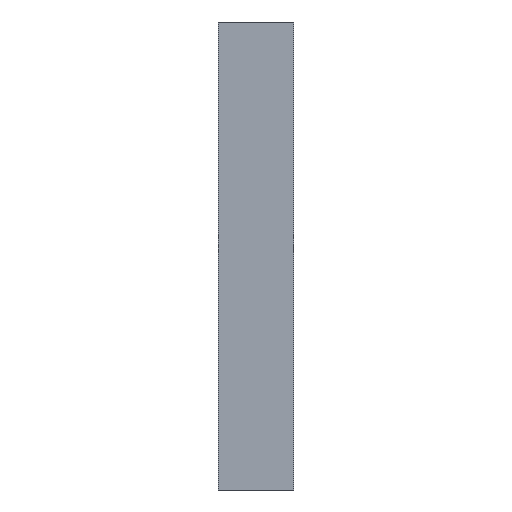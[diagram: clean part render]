
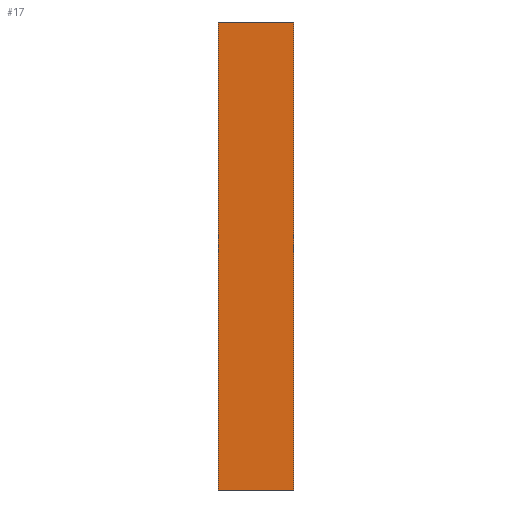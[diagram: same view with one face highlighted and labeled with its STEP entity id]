
A CAD part, left-side view. The second image highlights one B-rep face of the part: STEP entity #17.
In plain terms, the highlighted planar face has unit normal (-1, 0, 0).
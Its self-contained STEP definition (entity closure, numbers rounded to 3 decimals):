
#17 = ADVANCED_FACE('',(#18),#52,.F.);
#18 = FACE_BOUND('',#19,.F.);
#19 = EDGE_LOOP('',(#20,#30,#38,#46));
#20 = ORIENTED_EDGE('',*,*,#21,.F.);
#21 = EDGE_CURVE('',#22,#24,#26,.T.);
#22 = VERTEX_POINT('',#23);
#23 = CARTESIAN_POINT('',(13.6,-51.,288.25));
#24 = VERTEX_POINT('',#25);
#25 = CARTESIAN_POINT('',(13.6,-51.,331.75));
#26 = LINE('',#27,#28);
#27 = CARTESIAN_POINT('',(13.6,-51.,288.25));
#28 = VECTOR('',#29,1.);
#29 = DIRECTION('',(0.,0.,1.));
#30 = ORIENTED_EDGE('',*,*,#31,.T.);
#31 = EDGE_CURVE('',#22,#32,#34,.T.);
#32 = VERTEX_POINT('',#33);
#33 = CARTESIAN_POINT('',(13.6,-44.,288.25));
#34 = LINE('',#35,#36);
#35 = CARTESIAN_POINT('',(13.6,-51.,288.25));
#36 = VECTOR('',#37,1.);
#37 = DIRECTION('',(0.,1.,0.));
#38 = ORIENTED_EDGE('',*,*,#39,.T.);
#39 = EDGE_CURVE('',#32,#40,#42,.T.);
#40 = VERTEX_POINT('',#41);
#41 = CARTESIAN_POINT('',(13.6,-44.,331.75));
#42 = LINE('',#43,#44);
#43 = CARTESIAN_POINT('',(13.6,-44.,288.25));
#44 = VECTOR('',#45,1.);
#45 = DIRECTION('',(0.,0.,1.));
#46 = ORIENTED_EDGE('',*,*,#47,.F.);
#47 = EDGE_CURVE('',#24,#40,#48,.T.);
#48 = LINE('',#49,#50);
#49 = CARTESIAN_POINT('',(13.6,-51.,331.75));
#50 = VECTOR('',#51,1.);
#51 = DIRECTION('',(0.,1.,0.));
#52 = PLANE('',#53);
#53 = AXIS2_PLACEMENT_3D('',#54,#55,#56);
#54 = CARTESIAN_POINT('',(13.6,-51.,288.25));
#55 = DIRECTION('',(1.,0.,0.));
#56 = DIRECTION('',(0.,0.,1.));
